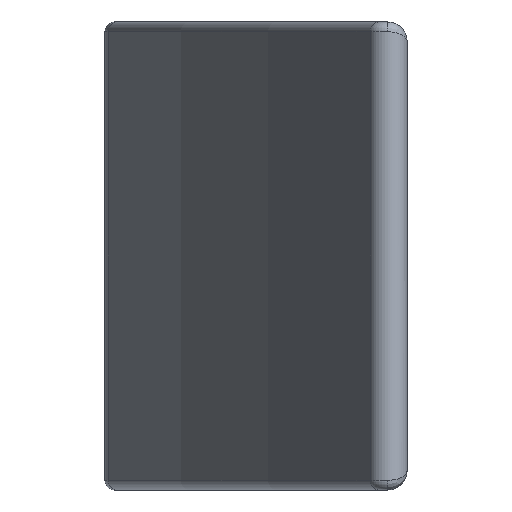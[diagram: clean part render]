
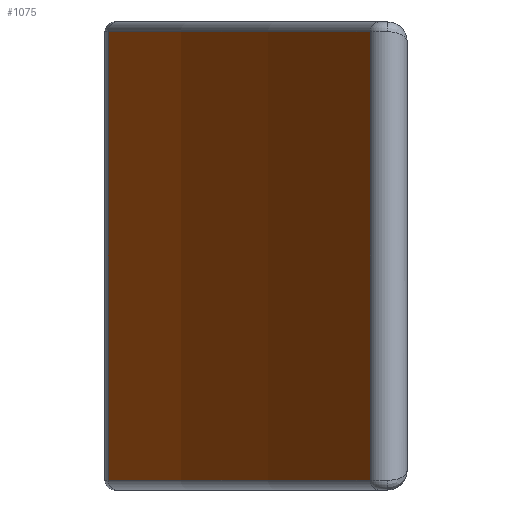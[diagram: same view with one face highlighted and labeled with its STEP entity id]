
A CAD part, left-side view. The second image highlights one B-rep face of the part: STEP entity #1075.
In plain terms, the highlighted cylindrical face has radius 400 mm (diameter 800 mm), a partial arc.
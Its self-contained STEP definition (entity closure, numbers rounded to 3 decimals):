
#86 = DIRECTION ( 'NONE',  ( 1., 0., 0. ) ) ;
#108 = CARTESIAN_POINT ( 'NONE',  ( -127.464, 3.796, -47. ) ) ;
#164 = CYLINDRICAL_SURFACE ( 'NONE', #1107, 400. ) ;
#192 = CARTESIAN_POINT ( 'NONE',  ( -56.298, 30.649, -1. ) ) ;
#270 = CARTESIAN_POINT ( 'NONE',  ( 48.695, -355.325, -47. ) ) ;
#313 = CARTESIAN_POINT ( 'NONE',  ( -56.298, 30.649, -47. ) ) ;
#338 = CIRCLE ( 'NONE', #1565, 400. ) ;
#355 = DIRECTION ( 'NONE',  ( 0., 0., 1. ) ) ;
#387 = DIRECTION ( 'NONE',  ( 0., 0., -1. ) ) ;
#394 = CARTESIAN_POINT ( 'NONE',  ( -127.464, 3.796, -1. ) ) ;
#419 = CARTESIAN_POINT ( 'NONE',  ( 48.695, -355.325, -1. ) ) ;
#509 = CARTESIAN_POINT ( 'NONE',  ( -127.464, 3.796, -48. ) ) ;
#566 = DIRECTION ( 'NONE',  ( 0., 0., -1. ) ) ;
#621 = VERTEX_POINT ( 'NONE', #313 ) ;
#623 = ORIENTED_EDGE ( 'NONE', *, *, #1152, .T. ) ;
#663 = CARTESIAN_POINT ( 'NONE',  ( -56.298, 30.649, -48. ) ) ;
#884 = EDGE_CURVE ( 'NONE', #621, #1327, #1459, .T. ) ;
#935 = DIRECTION ( 'NONE',  ( 1., 0., 0. ) ) ;
#1008 = FACE_OUTER_BOUND ( 'NONE', #1631, .T. ) ;
#1040 = LINE ( 'NONE', #509, #1777 ) ;
#1075 = ADVANCED_FACE ( 'NONE', ( #1008 ), #164, .T. ) ;
#1092 = EDGE_CURVE ( 'NONE', #1327, #1755, #1040, .T. ) ;
#1107 = AXIS2_PLACEMENT_3D ( 'NONE', #1535, #355, #1372 ) ;
#1152 = EDGE_CURVE ( 'NONE', #2006, #621, #1310, .T. ) ;
#1210 = ORIENTED_EDGE ( 'NONE', *, *, #1092, .T. ) ;
#1310 = LINE ( 'NONE', #663, #1877 ) ;
#1327 = VERTEX_POINT ( 'NONE', #108 ) ;
#1372 = DIRECTION ( 'NONE',  ( 1., 0., 0. ) ) ;
#1459 = CIRCLE ( 'NONE', #1720, 400. ) ;
#1490 = ORIENTED_EDGE ( 'NONE', *, *, #884, .T. ) ;
#1535 = CARTESIAN_POINT ( 'NONE',  ( 48.695, -355.325, -48. ) ) ;
#1565 = AXIS2_PLACEMENT_3D ( 'NONE', #419, #566, #86 ) ;
#1631 = EDGE_LOOP ( 'NONE', ( #623, #1490, #1210, #1926 ) ) ;
#1720 = AXIS2_PLACEMENT_3D ( 'NONE', #270, #1965, #935 ) ;
#1755 = VERTEX_POINT ( 'NONE', #394 ) ;
#1777 = VECTOR ( 'NONE', #1857, 1000. ) ;
#1822 = EDGE_CURVE ( 'NONE', #1755, #2006, #338, .T. ) ;
#1857 = DIRECTION ( 'NONE',  ( 0., 0., 1. ) ) ;
#1877 = VECTOR ( 'NONE', #387, 1000. ) ;
#1926 = ORIENTED_EDGE ( 'NONE', *, *, #1822, .T. ) ;
#1965 = DIRECTION ( 'NONE',  ( 0., 0., 1. ) ) ;
#2006 = VERTEX_POINT ( 'NONE', #192 ) ;
